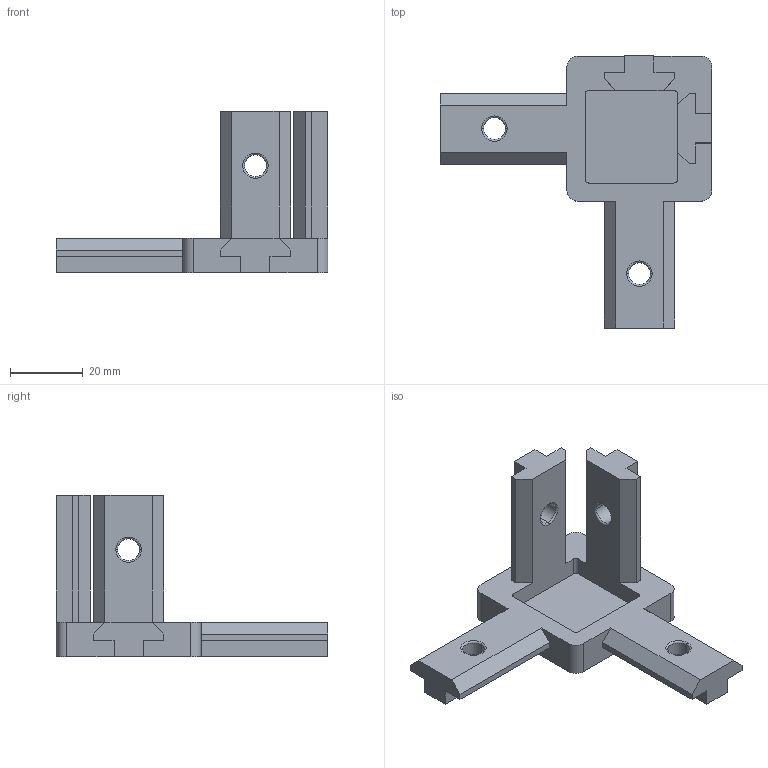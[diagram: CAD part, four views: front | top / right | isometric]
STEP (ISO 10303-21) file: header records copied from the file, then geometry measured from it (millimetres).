
FILE_DESCRIPTION (( 'STEP AP203' ), '1' );
FILE_NAME ('2067.STEP', '2016-01-22T11:06:51', ( '' ), ( '' ), 'SwSTEP 2.0', 'SolidWorks 2014', '' );
FILE_SCHEMA (( 'CONFIG_CONTROL_DESIGN' ));
Length unit declared in the file: millimetre
Products named in the file (1): 2067
Bounding box: 75 x 75 x 44.5 mm (x, y, z)
Volume: 28008.1 mm3; surface area: 13202.6 mm2
Topology: 1 solids, 1 shells, 82 faces, 224 edges, 144 vertices
Faces by surface type: plane 50, torus 16, cylinder 16
Entity records: 2677 total; most frequent: DIRECTION 454, CARTESIAN_POINT 451, ORIENTED_EDGE 448, EDGE_CURVE 224, LINE 160, VECTOR 160, AXIS2_PLACEMENT_3D 147, VERTEX_POINT 144
